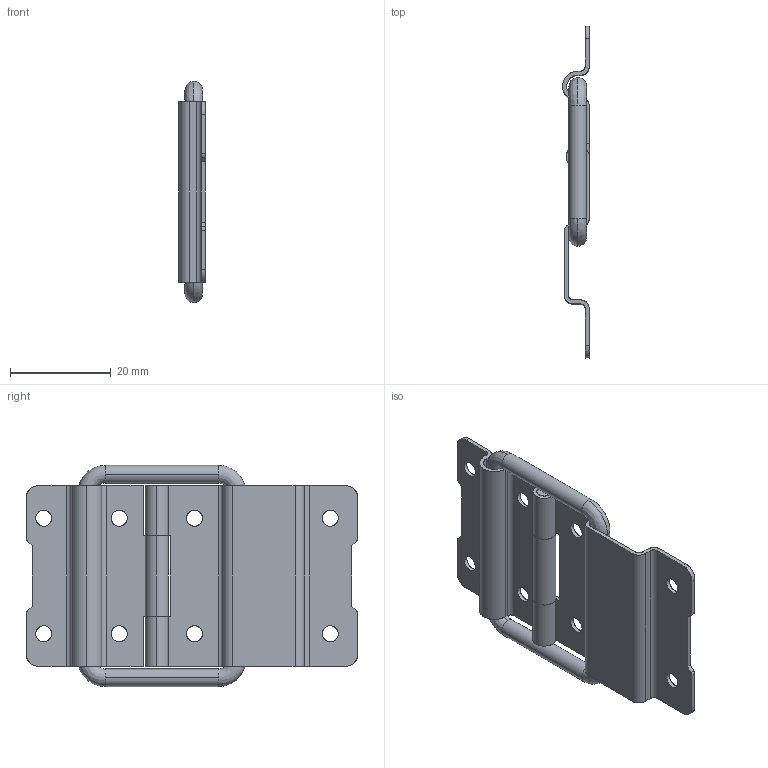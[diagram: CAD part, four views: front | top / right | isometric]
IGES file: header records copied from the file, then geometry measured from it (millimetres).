
Start section: SolidWorks IGES file using analytic representation for surfaces
Bounding box: 5.3 x 66 x 44 mm (x, y, z)
Surface area: 8074.9 mm2 (no closed solid volume)
Topology: 0 solids, 0 shells, 118 faces, 1820 edges, 1820 vertices
Faces by surface type: revolution 64, bspline 54
